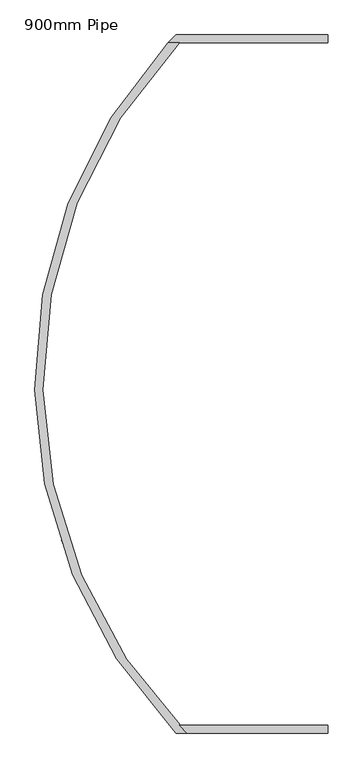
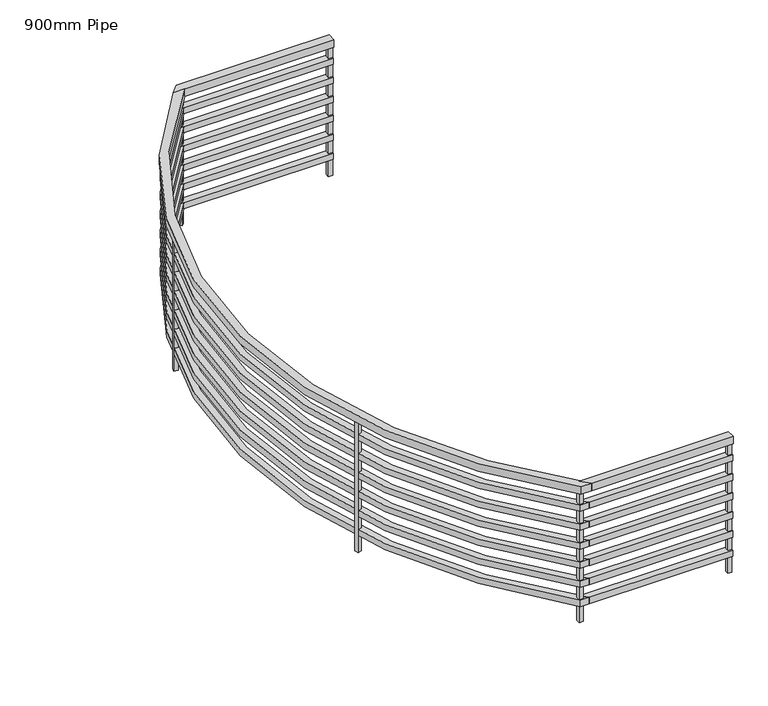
"""IFC4 building model written with IfcOpenShell, lengths in millimetres: railing geometry, 900mm Pipe."""

from ifc_helpers import new_model, si_unit, point, frame, frame_2d, origin, place, context, project, spatial, polyline, circle_curve, trimmed, segment, composite_curve, outline, extrude, source, transform, mapped, element, save


def railing_900mm_pipe_290ed59c(model_context):
    return source(origin(), model_context, "Body", "SweptSolid", [
        extrude(outline(polyline([(-12637.1962165, 2217.6290541), (-12637.1962165, 2167.6290541), (-13516.2695382, 2167.6290541), (-13564.3086094, 2217.6290541), (-12637.1962165, 2217.6290541)])), frame((0.0, 0.0, 9600.0), z_axis=(0.0, 0.0, 1.0), x_axis=(1.0, 0.0, 0.0)), (0.0, 0.0, 1.0), 50.0),
        extrude(outline(composite_curve([segment(trimmed(circle_curve(frame_2d((-11337.1962165, 4342.6290541)), 3078.236703), [point((-13564.2831478, 6467.6290541))], [point((-13515.4790723, 2167.6290541))], True, "CARTESIAN"), True, "CONTINUOUS"), segment(polyline([(-13515.4790723, 2167.6290541), (-13585.5822754, 2167.6290541)]), True, "CONTINUOUS"), segment(trimmed(circle_curve(frame_2d((-11337.1962165, 4342.6290541)), 3128.236703), [point((-13585.5822754, 2167.6290541))], [point((-13632.8965171, 6467.6290541))], False, "CARTESIAN"), True, "CONTINUOUS"), segment(polyline([(-13632.8965171, 6467.6290541), (-13564.2831478, 6467.6290541)]), True, "CONTINUOUS")], self_intersect=False)), frame((0.0, 0.0, 9600.0), z_axis=(0.0, 0.0, 1.0), x_axis=(1.0, 0.0, 0.0)), (0.0, 0.0, 1.0), 50.0),
        extrude(outline(polyline([(-13633.0166998, 6467.6290541), (-13586.0349334, 6517.6290541), (-12637.1962165, 6517.6290541), (-12637.1962165, 6467.6290541), (-13633.0166998, 6467.6290541)])), frame((0.0, 0.0, 9600.0), z_axis=(0.0, 0.0, 1.0), x_axis=(1.0, 0.0, 0.0)), (0.0, 0.0, 1.0), 50.0),
        extrude(outline(polyline([(-12637.1962165, 2212.6290541), (-12637.1962165, 2172.6290541), (-13528.0072411, 2172.6290541), (-13566.438498, 2212.6290541), (-12637.1962165, 2212.6290541)])), frame((0.0, 0.0, 9485.0), z_axis=(0.0, 0.0, 1.0), x_axis=(1.0, 0.0, 0.0)), (0.0, 0.0, 1.0), 40.0),
        extrude(outline(composite_curve([segment(trimmed(circle_curve(frame_2d((-11337.1962165, 4342.6290541)), 3083.236703), [point((-13566.4222182, 6472.6290541))], [point((-13527.5040868, 2172.6290541))], True, "CARTESIAN"), True, "CONTINUOUS"), segment(polyline([(-13527.5040868, 2172.6290541), (-13583.4614508, 2172.6290541)]), True, "CONTINUOUS"), segment(trimmed(circle_curve(frame_2d((-11337.1962165, 4342.6290541)), 3123.236703), [point((-13583.4614508, 2172.6290541))], [point((-13621.4263938, 6472.6290541))], False, "CARTESIAN"), True, "CONTINUOUS"), segment(polyline([(-13621.4263938, 6472.6290541), (-13566.4222182, 6472.6290541)]), True, "CONTINUOUS")], self_intersect=False)), frame((0.0, 0.0, 9485.0), z_axis=(0.0, 0.0, 1.0), x_axis=(1.0, 0.0, 0.0)), (0.0, 0.0, 1.0), 40.0),
        extrude(outline(polyline([(-13621.5043864, 6472.6290541), (-13583.7519342, 6512.6290541), (-12637.1962165, 6512.6290541), (-12637.1962165, 6472.6290541), (-13621.5043864, 6472.6290541)])), frame((0.0, 0.0, 9485.0), z_axis=(0.0, 0.0, 1.0), x_axis=(1.0, 0.0, 0.0)), (0.0, 0.0, 1.0), 40.0),
        extrude(outline(polyline([(-12637.1962165, 2212.6290541), (-12637.1962165, 2172.6290541), (-13528.0072411, 2172.6290541), (-13566.438498, 2212.6290541), (-12637.1962165, 2212.6290541)])), frame((0.0, 0.0, 9360.0), z_axis=(0.0, 0.0, 1.0), x_axis=(1.0, 0.0, 0.0)), (0.0, 0.0, 1.0), 40.0),
        extrude(outline(composite_curve([segment(trimmed(circle_curve(frame_2d((-11337.1962165, 4342.6290541)), 3083.236703), [point((-13566.4222182, 6472.6290541))], [point((-13527.5040868, 2172.6290541))], True, "CARTESIAN"), True, "CONTINUOUS"), segment(polyline([(-13527.5040868, 2172.6290541), (-13583.4614508, 2172.6290541)]), True, "CONTINUOUS"), segment(trimmed(circle_curve(frame_2d((-11337.1962165, 4342.6290541)), 3123.236703), [point((-13583.4614508, 2172.6290541))], [point((-13621.4263938, 6472.6290541))], False, "CARTESIAN"), True, "CONTINUOUS"), segment(polyline([(-13621.4263938, 6472.6290541), (-13566.4222182, 6472.6290541)]), True, "CONTINUOUS")], self_intersect=False)), frame((0.0, 0.0, 9360.0), z_axis=(0.0, 0.0, 1.0), x_axis=(1.0, 0.0, 0.0)), (0.0, 0.0, 1.0), 40.0),
        extrude(outline(polyline([(-13621.5043864, 6472.6290541), (-13583.7519342, 6512.6290541), (-12637.1962165, 6512.6290541), (-12637.1962165, 6472.6290541), (-13621.5043864, 6472.6290541)])), frame((0.0, 0.0, 9360.0), z_axis=(0.0, 0.0, 1.0), x_axis=(1.0, 0.0, 0.0)), (0.0, 0.0, 1.0), 40.0),
        extrude(outline(polyline([(-12637.1962165, 2212.6290541), (-12637.1962165, 2172.6290541), (-13528.0072411, 2172.6290541), (-13566.438498, 2212.6290541), (-12637.1962165, 2212.6290541)])), frame((0.0, 0.0, 9235.0), z_axis=(0.0, 0.0, 1.0), x_axis=(1.0, 0.0, 0.0)), (0.0, 0.0, 1.0), 40.0),
        extrude(outline(composite_curve([segment(trimmed(circle_curve(frame_2d((-11337.1962165, 4342.6290541)), 3083.236703), [point((-13566.4222182, 6472.6290541))], [point((-13527.5040868, 2172.6290541))], True, "CARTESIAN"), True, "CONTINUOUS"), segment(polyline([(-13527.5040868, 2172.6290541), (-13583.4614508, 2172.6290541)]), True, "CONTINUOUS"), segment(trimmed(circle_curve(frame_2d((-11337.1962165, 4342.6290541)), 3123.236703), [point((-13583.4614508, 2172.6290541))], [point((-13621.4263938, 6472.6290541))], False, "CARTESIAN"), True, "CONTINUOUS"), segment(polyline([(-13621.4263938, 6472.6290541), (-13566.4222182, 6472.6290541)]), True, "CONTINUOUS")], self_intersect=False)), frame((0.0, 0.0, 9235.0), z_axis=(0.0, 0.0, 1.0), x_axis=(1.0, 0.0, 0.0)), (0.0, 0.0, 1.0), 40.0),
        extrude(outline(polyline([(-13621.5043864, 6472.6290541), (-13583.7519342, 6512.6290541), (-12637.1962165, 6512.6290541), (-12637.1962165, 6472.6290541), (-13621.5043864, 6472.6290541)])), frame((0.0, 0.0, 9235.0), z_axis=(0.0, 0.0, 1.0), x_axis=(1.0, 0.0, 0.0)), (0.0, 0.0, 1.0), 40.0),
        extrude(outline(polyline([(-12637.1962165, 2212.6290541), (-12637.1962165, 2172.6290541), (-13528.0072411, 2172.6290541), (-13566.438498, 2212.6290541), (-12637.1962165, 2212.6290541)])), frame((0.0, 0.0, 9110.0), z_axis=(0.0, 0.0, 1.0), x_axis=(1.0, 0.0, 0.0)), (0.0, 0.0, 1.0), 40.0),
        extrude(outline(composite_curve([segment(trimmed(circle_curve(frame_2d((-11337.1962165, 4342.6290541)), 3083.236703), [point((-13566.4222182, 6472.6290541))], [point((-13527.5040868, 2172.6290541))], True, "CARTESIAN"), True, "CONTINUOUS"), segment(polyline([(-13527.5040868, 2172.6290541), (-13583.4614508, 2172.6290541)]), True, "CONTINUOUS"), segment(trimmed(circle_curve(frame_2d((-11337.1962165, 4342.6290541)), 3123.236703), [point((-13583.4614508, 2172.6290541))], [point((-13621.4263938, 6472.6290541))], False, "CARTESIAN"), True, "CONTINUOUS"), segment(polyline([(-13621.4263938, 6472.6290541), (-13566.4222182, 6472.6290541)]), True, "CONTINUOUS")], self_intersect=False)), frame((0.0, 0.0, 9110.0), z_axis=(0.0, 0.0, 1.0), x_axis=(1.0, 0.0, 0.0)), (0.0, 0.0, 1.0), 40.0),
        extrude(outline(polyline([(-13621.5043864, 6472.6290541), (-13583.7519342, 6512.6290541), (-12637.1962165, 6512.6290541), (-12637.1962165, 6472.6290541), (-13621.5043864, 6472.6290541)])), frame((0.0, 0.0, 9110.0), z_axis=(0.0, 0.0, 1.0), x_axis=(1.0, 0.0, 0.0)), (0.0, 0.0, 1.0), 40.0),
        extrude(outline(polyline([(-12637.1962165, 2212.6290541), (-12637.1962165, 2172.6290541), (-13528.0072411, 2172.6290541), (-13566.438498, 2212.6290541), (-12637.1962165, 2212.6290541)])), frame((0.0, 0.0, 8985.0), z_axis=(0.0, 0.0, 1.0), x_axis=(1.0, 0.0, 0.0)), (0.0, 0.0, 1.0), 40.0),
        extrude(outline(composite_curve([segment(trimmed(circle_curve(frame_2d((-11337.1962165, 4342.6290541)), 3083.236703), [point((-13566.4222182, 6472.6290541))], [point((-13527.5040868, 2172.6290541))], True, "CARTESIAN"), True, "CONTINUOUS"), segment(polyline([(-13527.5040868, 2172.6290541), (-13583.4614508, 2172.6290541)]), True, "CONTINUOUS"), segment(trimmed(circle_curve(frame_2d((-11337.1962165, 4342.6290541)), 3123.236703), [point((-13583.4614508, 2172.6290541))], [point((-13621.4263938, 6472.6290541))], False, "CARTESIAN"), True, "CONTINUOUS"), segment(polyline([(-13621.4263938, 6472.6290541), (-13566.4222182, 6472.6290541)]), True, "CONTINUOUS")], self_intersect=False)), frame((0.0, 0.0, 8985.0), z_axis=(0.0, 0.0, 1.0), x_axis=(1.0, 0.0, 0.0)), (0.0, 0.0, 1.0), 40.0),
        extrude(outline(polyline([(-13621.5043864, 6472.6290541), (-13583.7519342, 6512.6290541), (-12637.1962165, 6512.6290541), (-12637.1962165, 6472.6290541), (-13621.5043864, 6472.6290541)])), frame((0.0, 0.0, 8985.0), z_axis=(0.0, 0.0, 1.0), x_axis=(1.0, 0.0, 0.0)), (0.0, 0.0, 1.0), 40.0),
        extrude(outline(polyline([(-12637.1962165, 2212.6290541), (-12637.1962165, 2172.6290541), (-13528.0072411, 2172.6290541), (-13566.438498, 2212.6290541), (-12637.1962165, 2212.6290541)])), frame((0.0, 0.0, 8860.0), z_axis=(0.0, 0.0, 1.0), x_axis=(1.0, 0.0, 0.0)), (0.0, 0.0, 1.0), 40.0),
        extrude(outline(composite_curve([segment(trimmed(circle_curve(frame_2d((-11337.1962165, 4342.6290541)), 3083.236703), [point((-13566.4222182, 6472.6290541))], [point((-13527.5040868, 2172.6290541))], True, "CARTESIAN"), True, "CONTINUOUS"), segment(polyline([(-13527.5040868, 2172.6290541), (-13583.4614508, 2172.6290541)]), True, "CONTINUOUS"), segment(trimmed(circle_curve(frame_2d((-11337.1962165, 4342.6290541)), 3123.236703), [point((-13583.4614508, 2172.6290541))], [point((-13621.4263938, 6472.6290541))], False, "CARTESIAN"), True, "CONTINUOUS"), segment(polyline([(-13621.4263938, 6472.6290541), (-13566.4222182, 6472.6290541)]), True, "CONTINUOUS")], self_intersect=False)), frame((0.0, 0.0, 8860.0), z_axis=(0.0, 0.0, 1.0), x_axis=(1.0, 0.0, 0.0)), (0.0, 0.0, 1.0), 40.0),
        extrude(outline(polyline([(-13621.5043864, 6472.6290541), (-13583.7519342, 6512.6290541), (-12637.1962165, 6512.6290541), (-12637.1962165, 6472.6290541), (-13621.5043864, 6472.6290541)])), frame((0.0, 0.0, 8860.0), z_axis=(0.0, 0.0, 1.0), x_axis=(1.0, 0.0, 0.0)), (0.0, 0.0, 1.0), 40.0),
        extrude(outline(polyline([(-14296.5155568, 5317.5139162), (-14288.598156, 5341.2270932), (-14264.884979, 5333.3096924), (-14272.8023798, 5309.5965154), (-14296.5155568, 5317.5139162)])), frame((0.0, 0.0, 8750.0), z_axis=(0.0, 0.0, 1.0), x_axis=(1.0, 0.0, 0.0)), (0.0, 0.0, 1.0), 850.0),
        extrude(outline(polyline([(-14288.598156, 3344.0310149), (-14296.5155568, 3367.744192), (-14272.8023798, 3375.6615928), (-14264.884979, 3351.9484157), (-14288.598156, 3344.0310149)])), frame((0.0, 0.0, 8750.0), z_axis=(0.0, 0.0, 1.0), x_axis=(1.0, 0.0, 0.0)), (0.0, 0.0, 1.0), 850.0),
        extrude(outline(polyline([(-13592.6321871, 6492.2755448), (-13575.3115618, 6510.3031886), (-13557.283918, 6492.9825634), (-13574.6045433, 6474.9549196), (-13592.6321871, 6492.2755448)])), frame((0.0, 0.0, 8750.0), z_axis=(0.0, 0.0, 1.0), x_axis=(1.0, 0.0, 0.0)), (0.0, 0.0, 1.0), 850.0),
        extrude(outline(polyline([(-13562.4580526, 2180.1290541), (-13587.4580526, 2180.1290541), (-13587.4580526, 2205.1290541), (-13562.4580526, 2205.1290541), (-13562.4580526, 2180.1290541)])), frame((0.0, 0.0, 8750.0), z_axis=(0.0, 0.0, 1.0), x_axis=(1.0, 0.0, 0.0)), (0.0, 0.0, 1.0), 850.0),
        extrude(outline(polyline([(-12662.1962165, 6505.1290541), (-12637.1962165, 6505.1290541), (-12637.1962165, 6480.1290541), (-12662.1962165, 6480.1290541), (-12662.1962165, 6505.1290541)])), frame((0.0, 0.0, 8750.0), z_axis=(0.0, 0.0, 1.0), x_axis=(1.0, 0.0, 0.0)), (0.0, 0.0, 1.0), 850.0),
        extrude(outline(polyline([(-12637.1962165, 2180.1290541), (-12662.1962165, 2180.1290541), (-12662.1962165, 2205.1290541), (-12637.1962165, 2205.1290541), (-12637.1962165, 2180.1290541)])), frame((0.0, 0.0, 8750.0), z_axis=(0.0, 0.0, 1.0), x_axis=(1.0, 0.0, 0.0)), (0.0, 0.0, 1.0), 850.0),
    ])


if __name__ == "__main__":
    model = new_model("IFC4")
    model_context = context("Model", 3, world=origin())
    ifc_project = project(units=[si_unit("LENGTHUNIT", "METRE", prefix="MILLI")], contexts=[model_context])
    site = spatial("IfcSite", under=ifc_project)
    building = spatial("IfcBuilding", under=site)
    placement = place(None, origin())
    railing_900mm_pipe_shape = railing_900mm_pipe_290ed59c(model_context)
    element("IfcRailing", 1, ObjectType="900mm Pipe", at=placement, inside=building, context=model_context, shape_type="MappedRepresentation", body=[
        mapped(railing_900mm_pipe_shape, transform((0.0, 0.0, 0.0), x_axis=(1.0, 0.0, 0.0), y_axis=(0.0, 1.0, 0.0), z_axis=(0.0, 0.0, 1.0))),
    ])
    save(model, "model.ifc")
